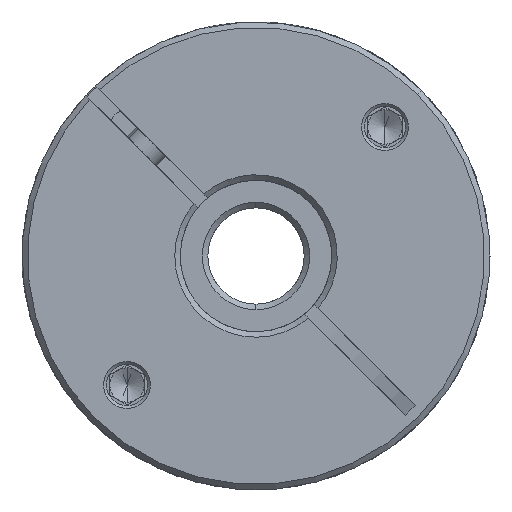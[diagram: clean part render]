
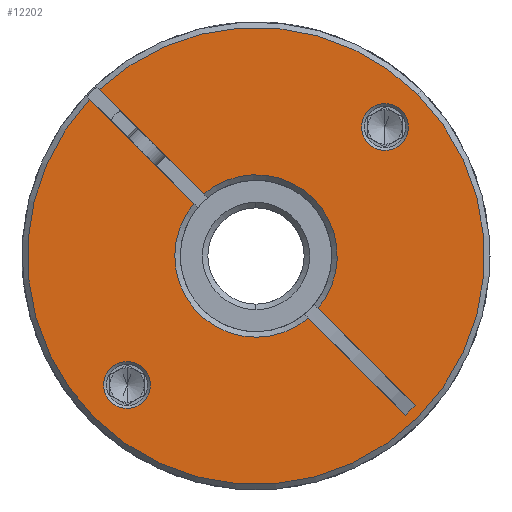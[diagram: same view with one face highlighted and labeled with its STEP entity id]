
A CAD part, front view. The second image highlights one B-rep face of the part: STEP entity #12202.
In plain terms, the highlighted planar face has unit normal (0, -1, 0).
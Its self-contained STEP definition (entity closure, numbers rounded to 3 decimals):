
#53 = ORIENTED_EDGE ( 'NONE', *, *, #4938, .T. ) ;
#209 = EDGE_CURVE ( 'NONE', #8763, #13512, #6000, .T. ) ;
#533 = AXIS2_PLACEMENT_3D ( 'NONE', #9678, #21275, #11226 ) ;
#639 = ORIENTED_EDGE ( 'NONE', *, *, #17441, .T. ) ;
#712 = EDGE_LOOP ( 'NONE', ( #1302, #53, #7362, #17165, #8924, #639, #1018, #9911, #9940, #6536, #20990 ) ) ;
#771 = DIRECTION ( 'NONE',  ( 0., 1., 0. ) ) ;
#986 = CIRCLE ( 'NONE', #15389, 11.8 ) ;
#1018 = ORIENTED_EDGE ( 'NONE', *, *, #9920, .T. ) ;
#1054 = DIRECTION ( 'NONE',  ( 0.707, 0., 0.707 ) ) ;
#1075 = EDGE_CURVE ( 'NONE', #21521, #19427, #9632, .T. ) ;
#1302 = ORIENTED_EDGE ( 'NONE', *, *, #9957, .F. ) ;
#1465 = CARTESIAN_POINT ( 'NONE',  ( 5.609, -67.045, 76.344 ) ) ;
#1519 = CIRCLE ( 'NONE', #533, 11.8 ) ;
#1808 = LINE ( 'NONE', #7609, #4899 ) ;
#2101 = DIRECTION ( 'NONE',  ( 0.707, 0., 0.707 ) ) ;
#2197 = LINE ( 'NONE', #6869, #11998 ) ;
#2297 = VECTOR ( 'NONE', #20219, 1000. ) ;
#2365 = AXIS2_PLACEMENT_3D ( 'NONE', #5367, #20195, #2101 ) ;
#2396 = CARTESIAN_POINT ( 'NONE',  ( 20.402, -67.045, 46.277 ) ) ;
#2453 = VERTEX_POINT ( 'NONE', #8101 ) ;
#2612 = CARTESIAN_POINT ( 'NONE',  ( 16.003, -67.045, 86.738 ) ) ;
#2624 = CARTESIAN_POINT ( 'NONE',  ( -10.342, -67.045, 77.021 ) ) ;
#2636 = DIRECTION ( 'NONE',  ( 0.707, 0., 0.707 ) ) ;
#2730 = VERTEX_POINT ( 'NONE', #19405 ) ;
#3191 = CIRCLE ( 'NONE', #2365, 33.2 ) ;
#3295 = VECTOR ( 'NONE', #18641, 1000. ) ;
#3598 = VERTEX_POINT ( 'NONE', #10814 ) ;
#3791 = DIRECTION ( 'NONE',  ( 0.707, 0., -0.707 ) ) ;
#3868 = CARTESIAN_POINT ( 'NONE',  ( -3.442, -67.045, 67.293 ) ) ;
#3902 = DIRECTION ( 'NONE',  ( 0., -1., 0. ) ) ;
#4880 = LINE ( 'NONE', #10148, #2297 ) ;
#4899 = VECTOR ( 'NONE', #9150, 1000. ) ;
#4938 = EDGE_CURVE ( 'NONE', #4983, #21521, #18557, .T. ) ;
#4983 = VERTEX_POINT ( 'NONE', #16969 ) ;
#5096 = FACE_BOUND ( 'NONE', #6295, .T. ) ;
#5367 = CARTESIAN_POINT ( 'NONE',  ( -2.735, -67.045, 68. ) ) ;
#5534 = VERTEX_POINT ( 'NONE', #2624 ) ;
#5704 = AXIS2_PLACEMENT_3D ( 'NONE', #10607, #20691, #5715 ) ;
#5715 = DIRECTION ( 'NONE',  ( 0.707, 0., 0.707 ) ) ;
#5795 = EDGE_CURVE ( 'NONE', #8872, #8096, #2197, .T. ) ;
#5906 = CARTESIAN_POINT ( 'NONE',  ( -19.069, -67.045, 51.666 ) ) ;
#6000 = CIRCLE ( 'NONE', #7756, 3.4 ) ;
#6018 = VERTEX_POINT ( 'NONE', #7508 ) ;
#6295 = EDGE_LOOP ( 'NONE', ( #14127, #8724 ) ) ;
#6463 = AXIS2_PLACEMENT_3D ( 'NONE', #18487, #3902, #13614 ) ;
#6536 = ORIENTED_EDGE ( 'NONE', *, *, #8442, .F. ) ;
#6869 = CARTESIAN_POINT ( 'NONE',  ( -2.028, -67.045, 68.707 ) ) ;
#6928 = ORIENTED_EDGE ( 'NONE', *, *, #209, .T. ) ;
#6946 = DIRECTION ( 'NONE',  ( 0.707, 0., -0.707 ) ) ;
#7161 = PLANE ( 'NONE',  #16003 ) ;
#7186 = CARTESIAN_POINT ( 'NONE',  ( -2.735, -67.045, 68. ) ) ;
#7362 = ORIENTED_EDGE ( 'NONE', *, *, #1075, .T. ) ;
#7508 = CARTESIAN_POINT ( 'NONE',  ( -25.493, -67.045, 92.172 ) ) ;
#7609 = CARTESIAN_POINT ( 'NONE',  ( -2.028, -67.045, 68.707 ) ) ;
#7707 = CIRCLE ( 'NONE', #19851, 11.8 ) ;
#7756 = AXIS2_PLACEMENT_3D ( 'NONE', #2612, #10888, #1054 ) ;
#7832 = CARTESIAN_POINT ( 'NONE',  ( 4.872, -67.045, 58.979 ) ) ;
#8096 = VERTEX_POINT ( 'NONE', #2396 ) ;
#8101 = CARTESIAN_POINT ( 'NONE',  ( 18.988, -67.045, 44.862 ) ) ;
#8135 = VERTEX_POINT ( 'NONE', #7832 ) ;
#8403 = EDGE_CURVE ( 'NONE', #19427, #6018, #3191, .T. ) ;
#8442 = EDGE_CURVE ( 'NONE', #8135, #2453, #8602, .T. ) ;
#8500 = CARTESIAN_POINT ( 'NONE',  ( 18.407, -67.045, 89.142 ) ) ;
#8539 = EDGE_CURVE ( 'NONE', #3598, #10473, #10884, .T. ) ;
#8587 = AXIS2_PLACEMENT_3D ( 'NONE', #12506, #17524, #2636 ) ;
#8602 = LINE ( 'NONE', #3868, #11395 ) ;
#8724 = ORIENTED_EDGE ( 'NONE', *, *, #8539, .T. ) ;
#8763 = VERTEX_POINT ( 'NONE', #8500 ) ;
#8860 = DIRECTION ( 'NONE',  ( 0.707, 0., 0.707 ) ) ;
#8872 = VERTEX_POINT ( 'NONE', #12129 ) ;
#8924 = ORIENTED_EDGE ( 'NONE', *, *, #16161, .T. ) ;
#9150 = DIRECTION ( 'NONE',  ( 0.707, 0., -0.707 ) ) ;
#9632 = CIRCLE ( 'NONE', #14942, 33.2 ) ;
#9678 = CARTESIAN_POINT ( 'NONE',  ( -2.735, -67.045, 68. ) ) ;
#9813 = CARTESIAN_POINT ( 'NONE',  ( -2.735, -67.045, 68. ) ) ;
#9911 = ORIENTED_EDGE ( 'NONE', *, *, #5795, .T. ) ;
#9920 = EDGE_CURVE ( 'NONE', #11265, #8872, #986, .T. ) ;
#9940 = ORIENTED_EDGE ( 'NONE', *, *, #18245, .T. ) ;
#9957 = EDGE_CURVE ( 'NONE', #4983, #2730, #4880, .T. ) ;
#10148 = CARTESIAN_POINT ( 'NONE',  ( -3.442, -67.045, 67.293 ) ) ;
#10185 = CARTESIAN_POINT ( 'NONE',  ( -26.211, -67.045, 44.524 ) ) ;
#10473 = VERTEX_POINT ( 'NONE', #5906 ) ;
#10571 = DIRECTION ( 'NONE',  ( 0.707, 0., 0.707 ) ) ;
#10607 = CARTESIAN_POINT ( 'NONE',  ( -21.473, -67.045, 49.262 ) ) ;
#10748 = CARTESIAN_POINT ( 'NONE',  ( -2.735, -67.045, 68. ) ) ;
#10814 = CARTESIAN_POINT ( 'NONE',  ( -23.878, -67.045, 46.858 ) ) ;
#10884 = CIRCLE ( 'NONE', #5704, 3.4 ) ;
#10888 = DIRECTION ( 'NONE',  ( 0., 1., 0. ) ) ;
#10971 = CARTESIAN_POINT ( 'NONE',  ( 20.741, -67.045, 91.476 ) ) ;
#11226 = DIRECTION ( 'NONE',  ( 0.707, 0., 0.707 ) ) ;
#11265 = VERTEX_POINT ( 'NONE', #1465 ) ;
#11395 = VECTOR ( 'NONE', #3791, 1000. ) ;
#11998 = VECTOR ( 'NONE', #6946, 1000. ) ;
#12103 = DIRECTION ( 'NONE',  ( 0., -1., 0. ) ) ;
#12129 = CARTESIAN_POINT ( 'NONE',  ( 6.286, -67.045, 60.393 ) ) ;
#12202 = ADVANCED_FACE ( 'NONE', ( #16986, #5096, #12298 ), #7161, .T. ) ;
#12298 = FACE_OUTER_BOUND ( 'NONE', #712, .T. ) ;
#12355 = DIRECTION ( 'NONE',  ( 0.707, 0., 0.707 ) ) ;
#12506 = CARTESIAN_POINT ( 'NONE',  ( 16.003, -67.045, 86.738 ) ) ;
#13216 = EDGE_CURVE ( 'NONE', #10473, #3598, #16397, .T. ) ;
#13512 = VERTEX_POINT ( 'NONE', #16932 ) ;
#13614 = DIRECTION ( 'NONE',  ( 0.707, 0., 0.707 ) ) ;
#14094 = EDGE_CURVE ( 'NONE', #13512, #8763, #16037, .T. ) ;
#14127 = ORIENTED_EDGE ( 'NONE', *, *, #13216, .T. ) ;
#14489 = EDGE_LOOP ( 'NONE', ( #6928, #21287 ) ) ;
#14681 = DIRECTION ( 'NONE',  ( 0.707, 0., 0.707 ) ) ;
#14942 = AXIS2_PLACEMENT_3D ( 'NONE', #7186, #18745, #8860 ) ;
#15389 = AXIS2_PLACEMENT_3D ( 'NONE', #9813, #17913, #14681 ) ;
#15513 = DIRECTION ( 'NONE',  ( 0.707, 0., 0.707 ) ) ;
#15609 = DIRECTION ( 'NONE',  ( 0., 1., 0. ) ) ;
#15747 = CARTESIAN_POINT ( 'NONE',  ( -2.735, -67.045, 68. ) ) ;
#15817 = CARTESIAN_POINT ( 'NONE',  ( -21.473, -67.045, 49.262 ) ) ;
#16003 = AXIS2_PLACEMENT_3D ( 'NONE', #10748, #12103, #15513 ) ;
#16037 = CIRCLE ( 'NONE', #8587, 3.4 ) ;
#16161 = EDGE_CURVE ( 'NONE', #6018, #5534, #1808, .T. ) ;
#16397 = CIRCLE ( 'NONE', #20757, 3.4 ) ;
#16932 = CARTESIAN_POINT ( 'NONE',  ( 13.599, -67.045, 84.334 ) ) ;
#16969 = CARTESIAN_POINT ( 'NONE',  ( -26.908, -67.045, 90.758 ) ) ;
#16986 = FACE_BOUND ( 'NONE', #14489, .T. ) ;
#17165 = ORIENTED_EDGE ( 'NONE', *, *, #8403, .T. ) ;
#17441 = EDGE_CURVE ( 'NONE', #5534, #11265, #7707, .T. ) ;
#17524 = DIRECTION ( 'NONE',  ( 0., 1., 0. ) ) ;
#17751 = LINE ( 'NONE', #18367, #3295 ) ;
#17913 = DIRECTION ( 'NONE',  ( 0., 1., 0. ) ) ;
#18245 = EDGE_CURVE ( 'NONE', #8096, #2453, #17751, .T. ) ;
#18367 = CARTESIAN_POINT ( 'NONE',  ( 18.988, -67.045, 44.862 ) ) ;
#18487 = CARTESIAN_POINT ( 'NONE',  ( -2.735, -67.045, 68. ) ) ;
#18557 = CIRCLE ( 'NONE', #6463, 33.2 ) ;
#18641 = DIRECTION ( 'NONE',  ( -0.707, 0., -0.707 ) ) ;
#18745 = DIRECTION ( 'NONE',  ( 0., -1., 0. ) ) ;
#19405 = CARTESIAN_POINT ( 'NONE',  ( -11.756, -67.045, 75.607 ) ) ;
#19427 = VERTEX_POINT ( 'NONE', #10971 ) ;
#19851 = AXIS2_PLACEMENT_3D ( 'NONE', #15747, #15609, #12355 ) ;
#20195 = DIRECTION ( 'NONE',  ( 0., -1., 0. ) ) ;
#20219 = DIRECTION ( 'NONE',  ( 0.707, 0., -0.707 ) ) ;
#20691 = DIRECTION ( 'NONE',  ( 0., 1., 0. ) ) ;
#20757 = AXIS2_PLACEMENT_3D ( 'NONE', #15817, #771, #10571 ) ;
#20990 = ORIENTED_EDGE ( 'NONE', *, *, #21211, .T. ) ;
#21211 = EDGE_CURVE ( 'NONE', #8135, #2730, #1519, .T. ) ;
#21275 = DIRECTION ( 'NONE',  ( 0., 1., 0. ) ) ;
#21287 = ORIENTED_EDGE ( 'NONE', *, *, #14094, .T. ) ;
#21521 = VERTEX_POINT ( 'NONE', #10185 ) ;
